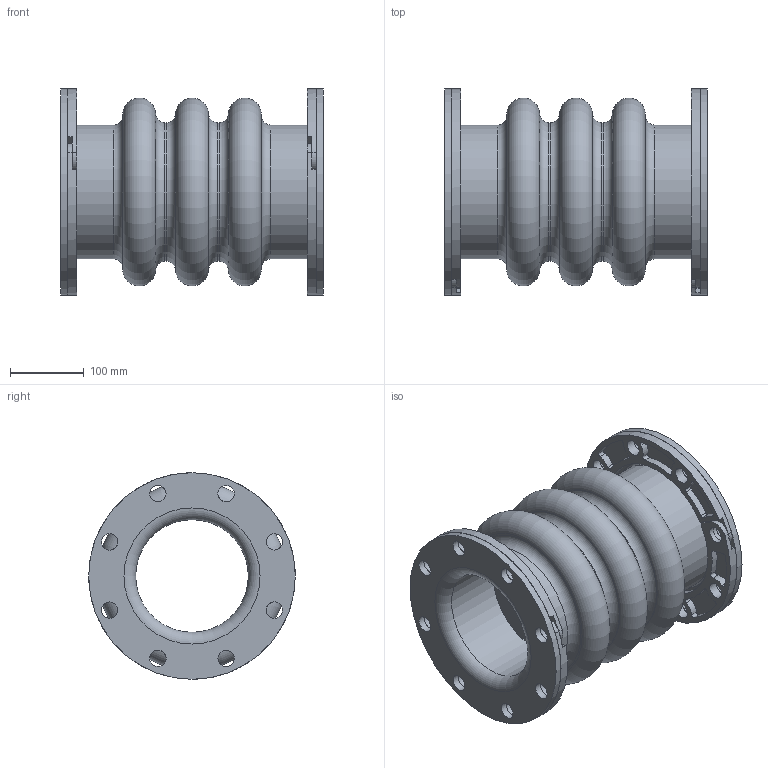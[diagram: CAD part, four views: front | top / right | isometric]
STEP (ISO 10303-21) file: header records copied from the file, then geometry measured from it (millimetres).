
FILE_DESCRIPTION(/* description */ (''),/* implementation_level */ '2;1');
FILE_NAME(/* name */ 'C:\001_Work\Designs\Mercer2014\MQInventor2014\RajR\500 Style\503\New folder\503 6IDx14FF.stp',/* time_stamp */ '2016-03-26T18:09:09-04:00',/* author */ ('rramoutar'),/* organization */ ('Mason Industries Inc.'),/* preprocessor_version */ 'ST-DEVELOPER v15.6',/* originating_system */ 'Autodesk Inventor 2015',/* authorisation */ '');
FILE_SCHEMA (('CONFIG_CONTROL_DESIGN'));
Length unit declared in the file: inch
Products named in the file (1): 503 6IDx14FF
Bounding box: 355.6 x 279.4 x 279.4 mm (x, y, z)
Volume: 5533973.6 mm3; surface area: 963275.5 mm2
Topology: 3 solids, 3 shells, 279 faces, 730 edges, 471 vertices
Faces by surface type: cylinder 187, plane 64, torus 16, cone 12
Full cylindrical faces by diameter (mm): 22.225 x34, 152.4 x4, 180.975 x2, 187.325 x2, 193.675 x1, 279.4 x2
Entity records: 8783 total; most frequent: DIRECTION 1636, CARTESIAN_POINT 1394, ORIENTED_EDGE 1300, AXIS2_PLACEMENT_3D 706, EDGE_CURVE 650, VERTEX_POINT 464, EDGE_LOOP 436, CIRCLE 426
